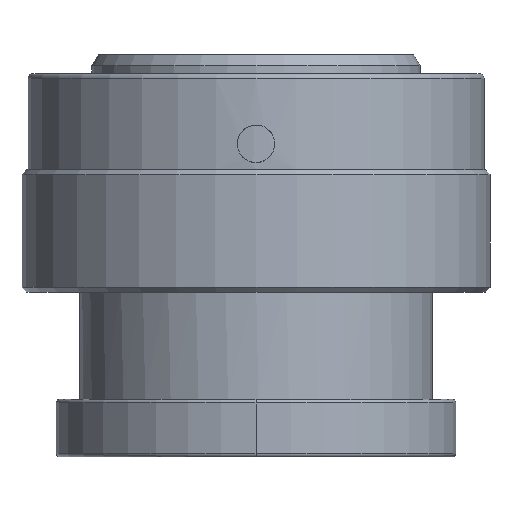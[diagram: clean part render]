
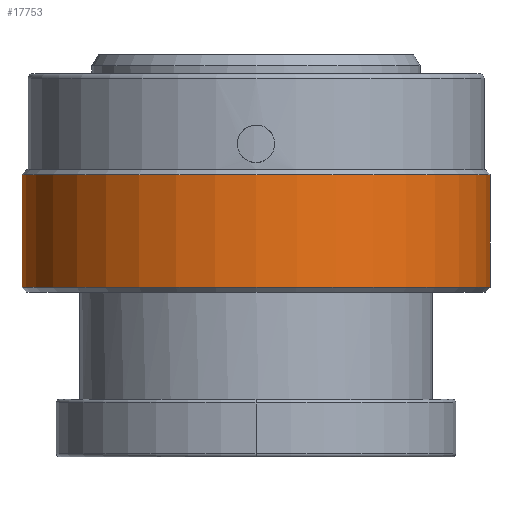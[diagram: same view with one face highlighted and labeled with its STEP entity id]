
A CAD part, left-side view. The second image highlights one B-rep face of the part: STEP entity #17753.
In plain terms, the highlighted cylindrical face has radius 24.765 mm (diameter 49.53 mm), a partial arc.
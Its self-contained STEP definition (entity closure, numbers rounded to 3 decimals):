
#6785=CARTESIAN_POINT('',(0.,0.,-10.668));
#6786=DIRECTION('',(0.,0.,1.));
#6787=DIRECTION('',(0.,1.,0.));
#6788=AXIS2_PLACEMENT_3D('',#6785,#6786,#6787);
#6790=DIRECTION('',(0.,0.,1.));
#6791=VECTOR('',#6790,11.938);
#6792=CARTESIAN_POINT('',(0.,-24.765,-22.606));
#6793=LINE('',#6792,#6791);
#6794=CARTESIAN_POINT('',(0.,0.,-22.606));
#6795=DIRECTION('',(0.,0.,1.));
#6796=DIRECTION('',(0.,1.,0.));
#6797=AXIS2_PLACEMENT_3D('',#6794,#6795,#6796);
#6799=DIRECTION('',(0.,0.,1.));
#6800=VECTOR('',#6799,11.938);
#6801=CARTESIAN_POINT('',(0.,24.765,-22.606));
#6802=LINE('',#6801,#6800);
#7217=CARTESIAN_POINT('',(0.,-24.765,-10.668));
#7218=CARTESIAN_POINT('',(0.,24.765,-10.668));
#7219=VERTEX_POINT('',#7217);
#7220=VERTEX_POINT('',#7218);
#7221=CARTESIAN_POINT('',(0.,-24.765,-22.606));
#7222=CARTESIAN_POINT('',(0.,24.765,-22.606));
#7223=VERTEX_POINT('',#7221);
#7224=VERTEX_POINT('',#7222);
#17741=CARTESIAN_POINT('',(0.,0.,1.156));
#17742=DIRECTION('',(0.,0.,-1.));
#17743=DIRECTION('',(0.,-1.,0.));
#17744=AXIS2_PLACEMENT_3D('',#17741,#17742,#17743);
#17745=CYLINDRICAL_SURFACE('',#17744,24.765);
#17746=ORIENTED_EDGE('',*,*,#17735,.T.);
#17747=ORIENTED_EDGE('',*,*,#11451,.F.);
#17749=ORIENTED_EDGE('',*,*,#17748,.F.);
#17750=ORIENTED_EDGE('',*,*,#11448,.T.);
#17751=EDGE_LOOP('',(#17746,#17747,#17749,#17750));
#17752=FACE_OUTER_BOUND('',#17751,.F.);
#17753=ADVANCED_FACE('',(#17752),#17745,.T.);
#6789=CIRCLE('',#6788,24.765);
#6798=CIRCLE('',#6797,24.765);
#11448=EDGE_CURVE('',#7224,#7220,#6802,.T.);
#11451=EDGE_CURVE('',#7223,#7219,#6793,.T.);
#17735=EDGE_CURVE('',#7220,#7219,#6789,.T.);
#17748=EDGE_CURVE('',#7224,#7223,#6798,.T.);
